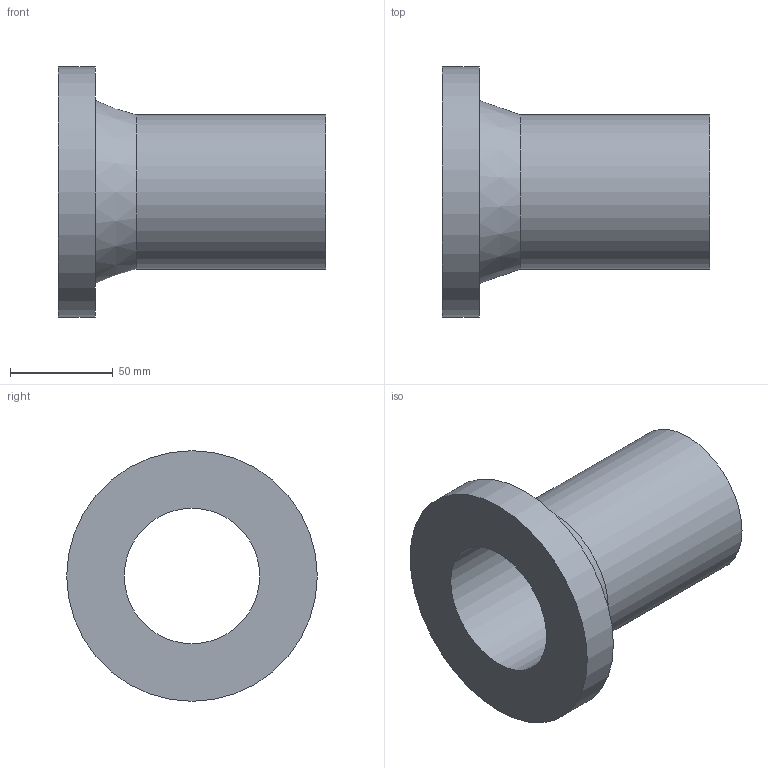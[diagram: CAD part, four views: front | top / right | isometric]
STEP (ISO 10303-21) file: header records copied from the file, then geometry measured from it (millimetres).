
FILE_DESCRIPTION(('Beschreibung'),'1');
FILE_NAME('V:/Ziel/25.80.01.063_SDR_17_PE100_075.STP', '2014-09-15T06:14:57',('Author'), ('Organization'), 'KCM Version 1.1.794.0', 'Kubotek KeyCreator', 'Authorization');
FILE_SCHEMA(('CONFIG_CONTROL_DESIGN'));
Length unit declared in the file: millimetre
Bounding box: 130 x 122 x 122 mm (x, y, z)
Volume: 277982.8 mm3; surface area: 75723.5 mm2
Topology: 1 solids, 1 shells, 7 faces, 18 edges, 21 vertices
Faces by surface type: cylinder 3, plane 3, cone 1
Full cylindrical faces by diameter (mm): 66 x1, 75 x1, 122 x1
Entity records: 286 total; most frequent: DIRECTION 41, CARTESIAN_POINT 33, ORIENTED_EDGE 22, AXIS2_PLACEMENT_3D 15, EDGE_CURVE 11, VECTOR 11, LINE 11, EDGE_LOOP 10
